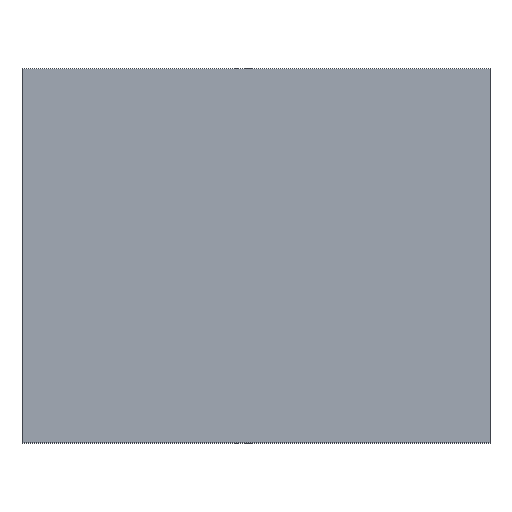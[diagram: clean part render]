
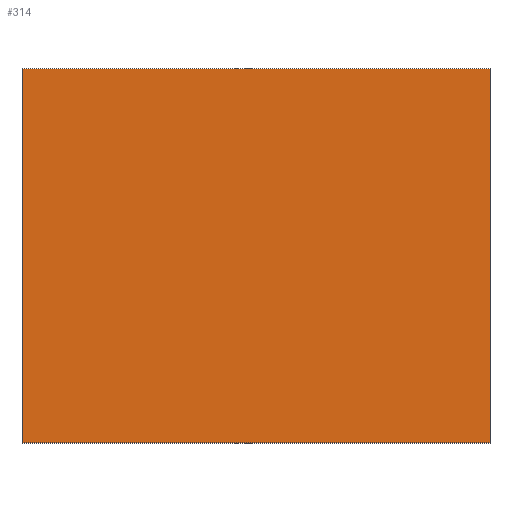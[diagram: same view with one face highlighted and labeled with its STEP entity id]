
A CAD part, top view. The second image highlights one B-rep face of the part: STEP entity #314.
In plain terms, the highlighted planar face has unit normal (0, 0, 1).
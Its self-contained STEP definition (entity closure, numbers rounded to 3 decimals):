
#24 = VERTEX_POINT('',#25);
#25 = CARTESIAN_POINT('',(0.,0.,12.));
#32 = PLANE('',#33);
#33 = AXIS2_PLACEMENT_3D('',#34,#35,#36);
#34 = CARTESIAN_POINT('',(0.,0.,0.));
#35 = DIRECTION('',(1.,0.,0.));
#36 = DIRECTION('',(0.,0.,1.));
#43 = PLANE('',#44);
#44 = AXIS2_PLACEMENT_3D('',#45,#46,#47);
#45 = CARTESIAN_POINT('',(0.,0.,0.));
#46 = DIRECTION('',(0.,1.,0.));
#47 = DIRECTION('',(0.,-0.,1.));
#81 = VERTEX_POINT('',#82);
#82 = CARTESIAN_POINT('',(0.,16.,12.));
#95 = PLANE('',#96);
#96 = AXIS2_PLACEMENT_3D('',#97,#98,#99);
#97 = CARTESIAN_POINT('',(0.,16.,0.));
#98 = DIRECTION('',(0.,1.,0.));
#99 = DIRECTION('',(0.,-0.,1.));
#106 = EDGE_CURVE('',#81,#24,#107,.T.);
#107 = SURFACE_CURVE('',#108,(#112,#118),.PCURVE_S1.);
#108 = LINE('',#109,#110);
#109 = CARTESIAN_POINT('',(0.,0.,12.));
#110 = VECTOR('',#111,1.);
#111 = DIRECTION('',(0.,-1.,0.));
#112 = PCURVE('',#32,#113);
#113 = DEFINITIONAL_REPRESENTATION('',(#114),#117);
#114 = B_SPLINE_CURVE_WITH_KNOTS('',1,(#115,#116),.UNSPECIFIED.,.F.,.F.,
  (2,2),(-10000000.,10000000.),.PIECEWISE_BEZIER_KNOTS.);
#115 = CARTESIAN_POINT('',(12.,-10000000.));
#116 = CARTESIAN_POINT('',(12.,10000000.));
#117 = ( GEOMETRIC_REPRESENTATION_CONTEXT(2) 
PARAMETRIC_REPRESENTATION_CONTEXT() REPRESENTATION_CONTEXT('2D SPACE',''
  ) );
#118 = PCURVE('',#119,#124);
#119 = PLANE('',#120);
#120 = AXIS2_PLACEMENT_3D('',#121,#122,#123);
#121 = CARTESIAN_POINT('',(0.,0.,12.));
#122 = DIRECTION('',(0.,0.,1.));
#123 = DIRECTION('',(1.,0.,-0.));
#124 = DEFINITIONAL_REPRESENTATION('',(#125),#128);
#125 = B_SPLINE_CURVE_WITH_KNOTS('',1,(#126,#127),.UNSPECIFIED.,.F.,.F.,
  (2,2),(-10000000.,10000000.),.PIECEWISE_BEZIER_KNOTS.);
#126 = CARTESIAN_POINT('',(0.,10000000.));
#127 = CARTESIAN_POINT('',(0.,-10000000.));
#128 = ( GEOMETRIC_REPRESENTATION_CONTEXT(2) 
PARAMETRIC_REPRESENTATION_CONTEXT() REPRESENTATION_CONTEXT('2D SPACE',''
  ) );
#155 = EDGE_CURVE('',#24,#156,#158,.T.);
#156 = VERTEX_POINT('',#157);
#157 = CARTESIAN_POINT('',(20.,0.,12.));
#158 = SURFACE_CURVE('',#159,(#163,#169),.PCURVE_S1.);
#159 = LINE('',#160,#161);
#160 = CARTESIAN_POINT('',(0.,0.,12.));
#161 = VECTOR('',#162,1.);
#162 = DIRECTION('',(1.,0.,0.));
#163 = PCURVE('',#43,#164);
#164 = DEFINITIONAL_REPRESENTATION('',(#165),#168);
#165 = B_SPLINE_CURVE_WITH_KNOTS('',1,(#166,#167),.UNSPECIFIED.,.F.,.F.,
  (2,2),(-10000000.,10000000.),.PIECEWISE_BEZIER_KNOTS.);
#166 = CARTESIAN_POINT('',(12.,-10000000.));
#167 = CARTESIAN_POINT('',(12.,10000000.));
#168 = ( GEOMETRIC_REPRESENTATION_CONTEXT(2) 
PARAMETRIC_REPRESENTATION_CONTEXT() REPRESENTATION_CONTEXT('2D SPACE',''
  ) );
#169 = PCURVE('',#119,#170);
#170 = DEFINITIONAL_REPRESENTATION('',(#171),#174);
#171 = B_SPLINE_CURVE_WITH_KNOTS('',1,(#172,#173),.UNSPECIFIED.,.F.,.F.,
  (2,2),(-10000000.,10000000.),.PIECEWISE_BEZIER_KNOTS.);
#172 = CARTESIAN_POINT('',(-10000000.,0.));
#173 = CARTESIAN_POINT('',(10000000.,0.));
#174 = ( GEOMETRIC_REPRESENTATION_CONTEXT(2) 
PARAMETRIC_REPRESENTATION_CONTEXT() REPRESENTATION_CONTEXT('2D SPACE',''
  ) );
#189 = PLANE('',#190);
#190 = AXIS2_PLACEMENT_3D('',#191,#192,#193);
#191 = CARTESIAN_POINT('',(20.,0.,0.));
#192 = DIRECTION('',(1.,0.,0.));
#193 = DIRECTION('',(0.,0.,1.));
#226 = VERTEX_POINT('',#227);
#227 = CARTESIAN_POINT('',(20.,16.,12.));
#246 = EDGE_CURVE('',#226,#156,#247,.T.);
#247 = SURFACE_CURVE('',#248,(#252,#258),.PCURVE_S1.);
#248 = LINE('',#249,#250);
#249 = CARTESIAN_POINT('',(20.,0.,12.));
#250 = VECTOR('',#251,1.);
#251 = DIRECTION('',(0.,-1.,0.));
#252 = PCURVE('',#189,#253);
#253 = DEFINITIONAL_REPRESENTATION('',(#254),#257);
#254 = B_SPLINE_CURVE_WITH_KNOTS('',1,(#255,#256),.UNSPECIFIED.,.F.,.F.,
  (2,2),(-10000000.,10000000.),.PIECEWISE_BEZIER_KNOTS.);
#255 = CARTESIAN_POINT('',(12.,-10000000.));
#256 = CARTESIAN_POINT('',(12.,10000000.));
#257 = ( GEOMETRIC_REPRESENTATION_CONTEXT(2) 
PARAMETRIC_REPRESENTATION_CONTEXT() REPRESENTATION_CONTEXT('2D SPACE',''
  ) );
#258 = PCURVE('',#119,#259);
#259 = DEFINITIONAL_REPRESENTATION('',(#260),#263);
#260 = B_SPLINE_CURVE_WITH_KNOTS('',1,(#261,#262),.UNSPECIFIED.,.F.,.F.,
  (2,2),(-10000000.,10000000.),.PIECEWISE_BEZIER_KNOTS.);
#261 = CARTESIAN_POINT('',(20.,10000000.));
#262 = CARTESIAN_POINT('',(20.,-10000000.));
#263 = ( GEOMETRIC_REPRESENTATION_CONTEXT(2) 
PARAMETRIC_REPRESENTATION_CONTEXT() REPRESENTATION_CONTEXT('2D SPACE',''
  ) );
#288 = EDGE_CURVE('',#81,#226,#289,.T.);
#289 = SURFACE_CURVE('',#290,(#294,#300),.PCURVE_S1.);
#290 = LINE('',#291,#292);
#291 = CARTESIAN_POINT('',(0.,16.,12.));
#292 = VECTOR('',#293,1.);
#293 = DIRECTION('',(1.,0.,0.));
#294 = PCURVE('',#95,#295);
#295 = DEFINITIONAL_REPRESENTATION('',(#296),#299);
#296 = B_SPLINE_CURVE_WITH_KNOTS('',1,(#297,#298),.UNSPECIFIED.,.F.,.F.,
  (2,2),(-10000000.,10000000.),.PIECEWISE_BEZIER_KNOTS.);
#297 = CARTESIAN_POINT('',(12.,-10000000.));
#298 = CARTESIAN_POINT('',(12.,10000000.));
#299 = ( GEOMETRIC_REPRESENTATION_CONTEXT(2) 
PARAMETRIC_REPRESENTATION_CONTEXT() REPRESENTATION_CONTEXT('2D SPACE',''
  ) );
#300 = PCURVE('',#119,#301);
#301 = DEFINITIONAL_REPRESENTATION('',(#302),#305);
#302 = B_SPLINE_CURVE_WITH_KNOTS('',1,(#303,#304),.UNSPECIFIED.,.F.,.F.,
  (2,2),(-10000000.,10000000.),.PIECEWISE_BEZIER_KNOTS.);
#303 = CARTESIAN_POINT('',(-10000000.,16.));
#304 = CARTESIAN_POINT('',(10000000.,16.));
#305 = ( GEOMETRIC_REPRESENTATION_CONTEXT(2) 
PARAMETRIC_REPRESENTATION_CONTEXT() REPRESENTATION_CONTEXT('2D SPACE',''
  ) );
#314 = ADVANCED_FACE('',(#315),#119,.T.);
#315 = FACE_BOUND('',#316,.T.);
#316 = EDGE_LOOP('',(#317,#318,#319,#320));
#317 = ORIENTED_EDGE('',*,*,#106,.T.);
#318 = ORIENTED_EDGE('',*,*,#155,.T.);
#319 = ORIENTED_EDGE('',*,*,#246,.F.);
#320 = ORIENTED_EDGE('',*,*,#288,.F.);
